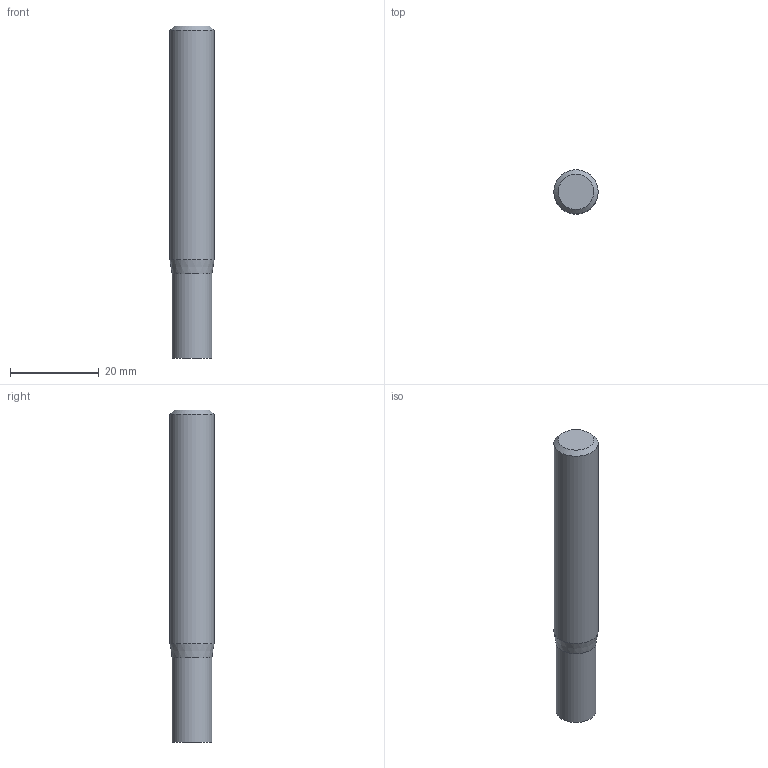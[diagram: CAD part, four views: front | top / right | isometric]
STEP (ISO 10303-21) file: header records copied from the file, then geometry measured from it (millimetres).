
FILE_DESCRIPTION((''),'2;1');
FILE_NAME('C:\Users\nsx150\AppData\Local\Temp\Mastercam 2021\98T1Q6BTT1\TEMP.step','2021-10-21T14:49:48',(''),(''),'STEP Write','Mastercam 2021 ... CNC Software, Inc.','');
FILE_SCHEMA(('AUTOMOTIVE_DESIGN'));
Length unit declared in the file: millimetre
Products named in the file (1): None
Bounding box: 10 x 10 x 75 mm (x, y, z)
Volume: 5568.3 mm3; surface area: 2542.4 mm2
Topology: 2 solids, 2 shells, 8 faces, 10 edges, 6 vertices
Faces by surface type: plane 4, cylinder 2, cone 2
Full cylindrical faces by diameter (mm): 9 x1, 10 x1
Entity records: 190 total; most frequent: DIRECTION 32, CARTESIAN_POINT 22, AXIS2_PLACEMENT_3D 16, ORIENTED_EDGE 12, EDGE_LOOP 12, STYLED_ITEM 11, ADVANCED_FACE 8, VERTEX_POINT 6
